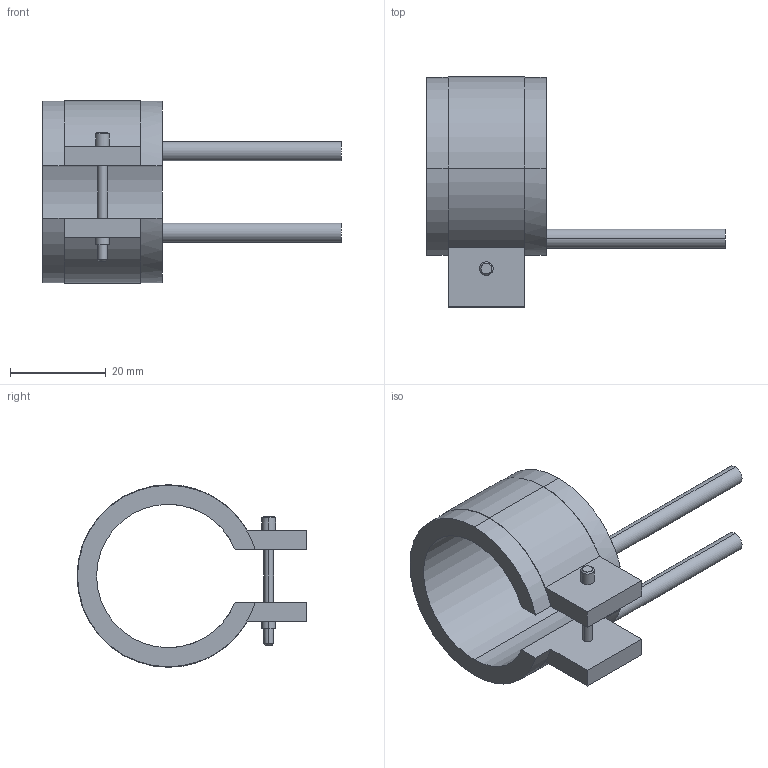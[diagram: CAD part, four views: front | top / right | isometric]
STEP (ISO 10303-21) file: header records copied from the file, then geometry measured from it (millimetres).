
FILE_DESCRIPTION(('CATIA V5 STEP Exchange'),'2;1');
FILE_NAME('C:\Users\Utente\Desktop\IO LAVORO\3D X SITO CF\X SITO\PLASTICA\RF2\14030025.stp','2021-03-31T11:41:51+00:00',('none'),('none'),'CATIA Version 5 Release 20 GA (IN-10)','CATIA V5 STEP AP203','none');
FILE_SCHEMA(('CONFIG_CONTROL_DESIGN'));
Length unit declared in the file: millimetre
Products named in the file (1): 14030025
Bounding box: 62.5 x 48.1 x 38.2 mm (x, y, z)
Volume: 12220.2 mm3; surface area: 7769 mm2
Topology: 1 solids, 1 shells, 45 faces, 116 edges, 76 vertices
Faces by surface type: cylinder 24, plane 17, cone 4
Entity records: 1412 total; most frequent: CARTESIAN_POINT 288, ORIENTED_EDGE 232, DIRECTION 195, EDGE_CURVE 116, AXIS2_PLACEMENT_3D 103, VERTEX_POINT 76, CIRCLE 61, VECTOR 52
